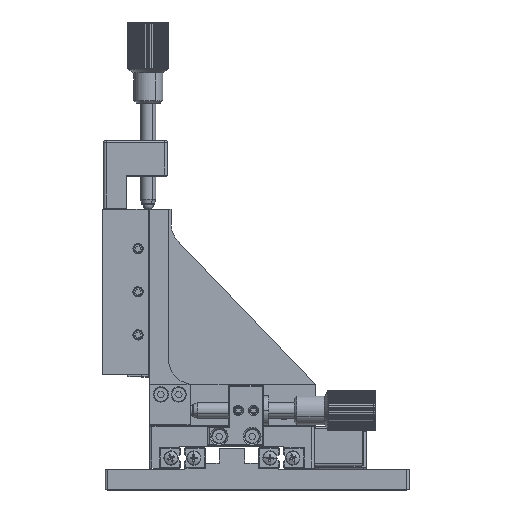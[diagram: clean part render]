
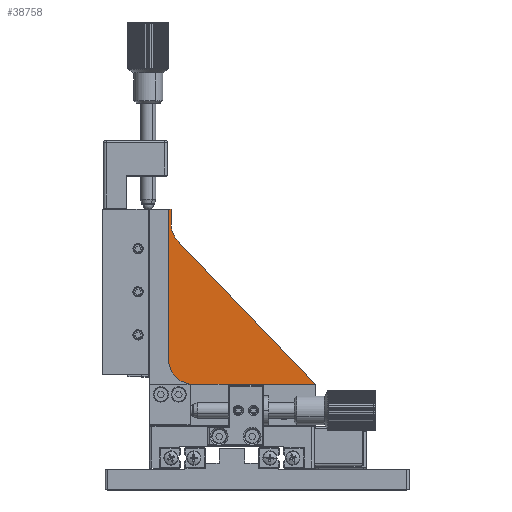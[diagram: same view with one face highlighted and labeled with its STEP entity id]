
A CAD part, top view. The second image highlights one B-rep face of the part: STEP entity #38758.
In plain terms, the highlighted planar face has unit normal (0, 0, 1).
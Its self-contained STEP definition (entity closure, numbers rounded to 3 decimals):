
#706 = CARTESIAN_POINT ( 'NONE',  ( 26., 26., 9.5 ) ) ;
#766 = DIRECTION ( 'NONE',  ( 1., 0., 0. ) ) ;
#842 = DIRECTION ( 'NONE',  ( 0., 0., -1. ) ) ;
#1264 = CARTESIAN_POINT ( 'NONE',  ( 17., 79.422, 9.5 ) ) ;
#1329 = LINE ( 'NONE', #7164, #34526 ) ;
#1838 = VECTOR ( 'NONE', #24241, 1000. ) ;
#1850 = VERTEX_POINT ( 'NONE', #35522 ) ;
#2464 = ORIENTED_EDGE ( 'NONE', *, *, #20409, .T. ) ;
#3297 = AXIS2_PLACEMENT_3D ( 'NONE', #28503, #5082, #27587 ) ;
#3933 = DIRECTION ( 'NONE',  ( 1., 0., 0. ) ) ;
#3934 = EDGE_CURVE ( 'NONE', #19601, #39302, #12839, .T. ) ;
#4817 = LINE ( 'NONE', #31499, #14376 ) ;
#4997 = CARTESIAN_POINT ( 'NONE',  ( 16., 85., 9.5 ) ) ;
#5082 = DIRECTION ( 'NONE',  ( 0., 0., 1. ) ) ;
#7102 = CARTESIAN_POINT ( 'NONE',  ( 26., 16., 9.5 ) ) ;
#7164 = CARTESIAN_POINT ( 'NONE',  ( 19.785, 72.498, 9.5 ) ) ;
#8275 = ORIENTED_EDGE ( 'NONE', *, *, #24661, .T. ) ;
#9562 = VECTOR ( 'NONE', #20934, 1000. ) ;
#11229 = CARTESIAN_POINT ( 'NONE',  ( 16., 26., 9.5 ) ) ;
#11344 = CARTESIAN_POINT ( 'NONE',  ( 16., 85., 9.5 ) ) ;
#12839 = CIRCLE ( 'NONE', #23300, 10. ) ;
#12944 = VECTOR ( 'NONE', #766, 1000. ) ;
#14376 = VECTOR ( 'NONE', #34715, 1000. ) ;
#14544 = EDGE_CURVE ( 'NONE', #27180, #1850, #38599, .T. ) ;
#16417 = FACE_OUTER_BOUND ( 'NONE', #37451, .T. ) ;
#16727 = VERTEX_POINT ( 'NONE', #11344 ) ;
#18911 = ORIENTED_EDGE ( 'NONE', *, *, #34075, .T. ) ;
#19601 = VERTEX_POINT ( 'NONE', #26539 ) ;
#20055 = CARTESIAN_POINT ( 'NONE',  ( 27., 79.422, 9.5 ) ) ;
#20367 = AXIS2_PLACEMENT_3D ( 'NONE', #706, #23152, #3933 ) ;
#20409 = EDGE_CURVE ( 'NONE', #39302, #37472, #26668, .T. ) ;
#20934 = DIRECTION ( 'NONE',  ( 0., 1., 0. ) ) ;
#22056 = CARTESIAN_POINT ( 'NONE',  ( 17., 85., 9.5 ) ) ;
#22938 = CIRCLE ( 'NONE', #20367, 10. ) ;
#23152 = DIRECTION ( 'NONE',  ( 0., 0., 1. ) ) ;
#23166 = DIRECTION ( 'NONE',  ( -0.692, 0.722, 0. ) ) ;
#23228 = CARTESIAN_POINT ( 'NONE',  ( 26., 16., 9.5 ) ) ;
#23300 = AXIS2_PLACEMENT_3D ( 'NONE', #20055, #842, #23312 ) ;
#23312 = DIRECTION ( 'NONE',  ( 1., 0., 0. ) ) ;
#24196 = CARTESIAN_POINT ( 'NONE',  ( 17., 85., 9.5 ) ) ;
#24241 = DIRECTION ( 'NONE',  ( -1., 0., 0. ) ) ;
#24661 = EDGE_CURVE ( 'NONE', #36642, #27180, #22938, .T. ) ;
#26539 = CARTESIAN_POINT ( 'NONE',  ( 19.785, 72.498, 9.5 ) ) ;
#26668 = LINE ( 'NONE', #24196, #9562 ) ;
#27180 = VERTEX_POINT ( 'NONE', #7102 ) ;
#27535 = ORIENTED_EDGE ( 'NONE', *, *, #3934, .T. ) ;
#27587 = DIRECTION ( 'NONE',  ( 1., 0., 0. ) ) ;
#28148 = ORIENTED_EDGE ( 'NONE', *, *, #35417, .T. ) ;
#28503 = CARTESIAN_POINT ( 'NONE',  ( 26., 26., 9.5 ) ) ;
#29009 = ORIENTED_EDGE ( 'NONE', *, *, #39210, .T. ) ;
#31499 = CARTESIAN_POINT ( 'NONE',  ( 16., 85., 9.5 ) ) ;
#33452 = ORIENTED_EDGE ( 'NONE', *, *, #14544, .T. ) ;
#34075 = EDGE_CURVE ( 'NONE', #37472, #16727, #35044, .T. ) ;
#34526 = VECTOR ( 'NONE', #23166, 1000. ) ;
#34715 = DIRECTION ( 'NONE',  ( 0., -1., 0. ) ) ;
#35044 = LINE ( 'NONE', #4997, #1838 ) ;
#35104 = PLANE ( 'NONE',  #3297 ) ;
#35417 = EDGE_CURVE ( 'NONE', #16727, #36642, #4817, .T. ) ;
#35522 = CARTESIAN_POINT ( 'NONE',  ( 74., 16., 9.5 ) ) ;
#36642 = VERTEX_POINT ( 'NONE', #11229 ) ;
#37451 = EDGE_LOOP ( 'NONE', ( #29009, #27535, #2464, #18911, #28148, #8275, #33452 ) ) ;
#37472 = VERTEX_POINT ( 'NONE', #22056 ) ;
#38599 = LINE ( 'NONE', #23228, #12944 ) ;
#38758 = ADVANCED_FACE ( 'NONE', ( #16417 ), #35104, .T. ) ;
#39210 = EDGE_CURVE ( 'NONE', #1850, #19601, #1329, .T. ) ;
#39302 = VERTEX_POINT ( 'NONE', #1264 ) ;
